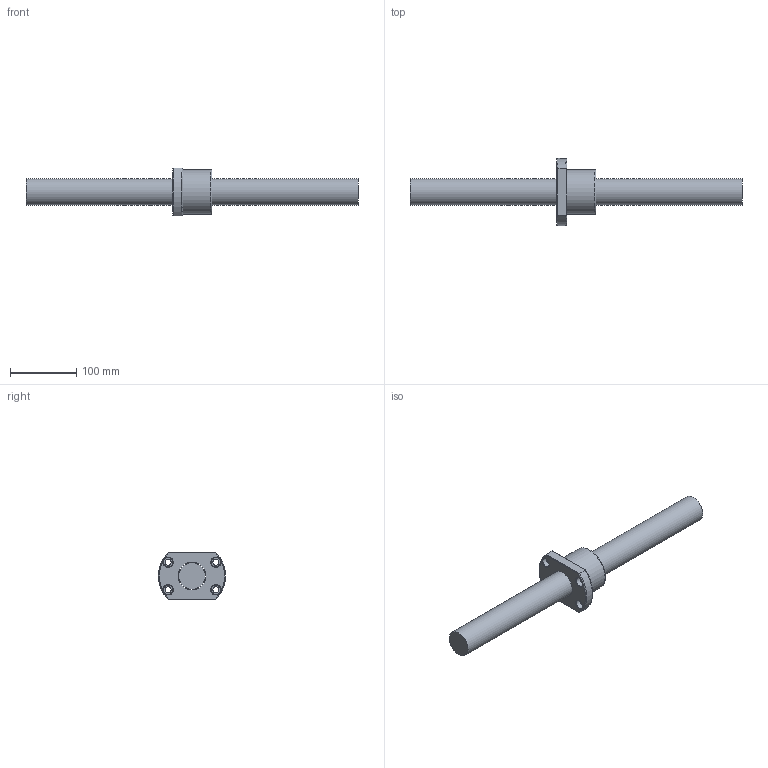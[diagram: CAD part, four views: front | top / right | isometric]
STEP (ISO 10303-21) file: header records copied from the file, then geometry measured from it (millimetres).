
FILE_DESCRIPTION (( 'STEP AP203' ), '1' );
FILE_NAME ('SFV04005D-4.8.step', '2024-05-20T03:39:29', ( '' ), ( '' ), 'SwSTEP 2.0', 'SolidWorks 2022', '' );
FILE_SCHEMA (( 'CONFIG_CONTROL_DESIGN' ));
Length unit declared in the file: millimetre
Products named in the file (1): SFV04005D-4.8
Bounding box: 500 x 101 x 72 mm (x, y, z)
Volume: 792323.1 mm3; surface area: 98960.8 mm2
Topology: 2 solids, 2 shells, 54 faces, 142 edges, 92 vertices
Faces by surface type: cylinder 20, plane 16, cone 9, torus 5, bspline 4
Full cylindrical faces by diameter (mm): 4 x1, 7 x5, 9 x4, 14 x4, 40 x1, 42.1 x1, 67 x1
Entity records: 3185 total; most frequent: CARTESIAN_POINT 2089, DIRECTION 200, ORIENTED_EDGE 186, EDGE_CURVE 93, AXIS2_PLACEMENT_3D 92, EDGE_LOOP 85, VERTEX_POINT 72, FACE_OUTER_BOUND 64
